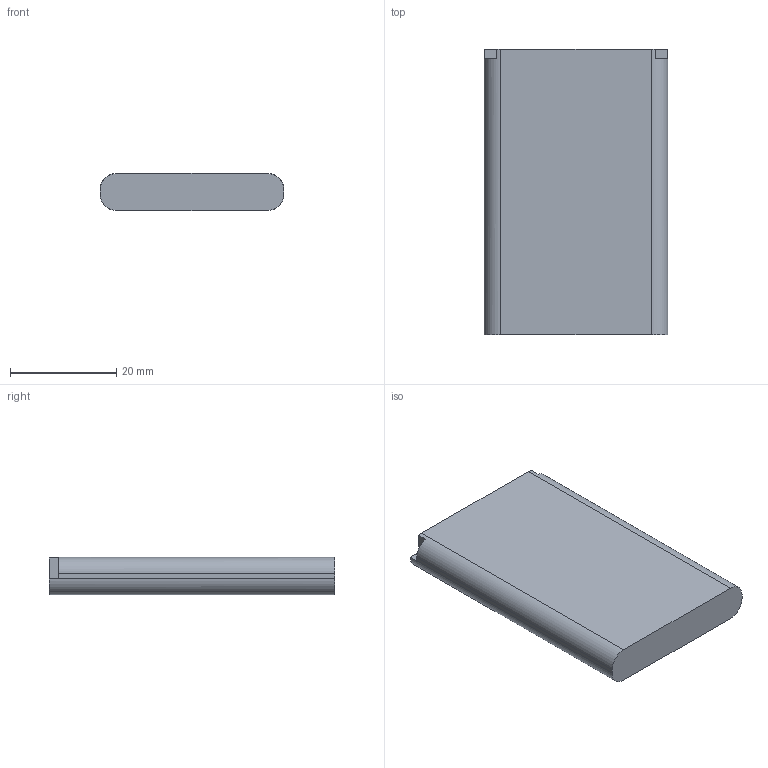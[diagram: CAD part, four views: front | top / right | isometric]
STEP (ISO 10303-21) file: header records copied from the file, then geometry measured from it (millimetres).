
FILE_DESCRIPTION((''),'2;1');
FILE_NAME('BATTERY-1200MAH-WELLDONE_PRT','2008-06-30T',('GRA'),(''),'PRO/ENGINEER BY PARAMETRIC TECHNOLOGY CORPORATION, 2006170','PRO/ENGINEER BY PARAMETRIC TECHNOLOGY CORPORATION, 2006170','');
FILE_SCHEMA(('CONFIG_CONTROL_DESIGN'));
Length unit declared in the file: millimetre
Products named in the file (1): BATTERY-1200MAH-WELLDONE_PRT
Bounding box: 34.6 x 53.8 x 7 mm (x, y, z)
Volume: 12541.9 mm3; surface area: 4687.8 mm2
Topology: 1 solids, 1 shells, 31 faces, 78 edges, 52 vertices
Faces by surface type: plane 27, cylinder 4
Entity records: 962 total; most frequent: CARTESIAN_POINT 161, ORIENTED_EDGE 156, DIRECTION 152, EDGE_CURVE 78, VECTOR 66, LINE 66, VERTEX_POINT 52, AXIS2_PLACEMENT_3D 43
